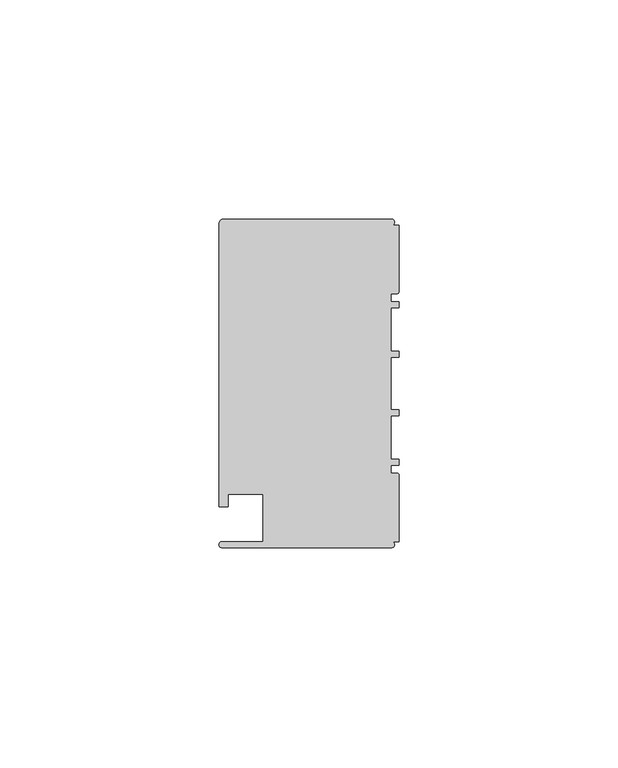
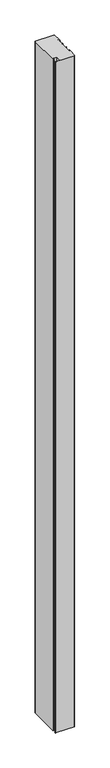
"""IFC4 building model written with IfcOpenShell, lengths in millimetres: member geometry, Прямоугольный импост : 1-AMG-1-Профиль 40Х75 Верх П."""

import ifcopenshell
import ifcopenshell.guid

model = None  # the IFC model being written
_history = None  # IfcOwnerHistory: only IFC2X3 demands one
_inside = {}  # id of a spatial element -> (the spatial element, [elements in it])
_under = {}  # id of a project, library or spatial element -> (it, [spatial elements below it])
_declared = {}  # id of a project -> (the project, [libraries it declares])
_typed = {}  # id of a type object -> (the type object, [elements of that type])
_made_of = {}  # id of a material, layer set ... -> (it, [elements and type objects made of it])


def new_model(schema):
    """Start an empty IFC model of exactly this schema.

    Asked for "IFC4X3", IfcOpenShell would pick the latest addendum, in which some entities
    have other attributes; the version numbers below select the first issue.
    IFC2X3 requires an IfcOwnerHistory on every rooted entity: one is made here for all.
    """
    global model, _history
    if schema == "IFC4X3":
        model = ifcopenshell.file(schema_version=(4, 3, 0, 0))
    else:
        model = ifcopenshell.file(schema=schema)
    _inside.clear()
    _under.clear()
    _declared.clear()
    _typed.clear()
    _made_of.clear()
    _history = None
    if model.schema == "IFC2X3":
        org = make("IfcOrganization", Name="unknown")
        user = make(
            "IfcPersonAndOrganization",
            ThePerson=make("IfcPerson", FamilyName="unknown"),
            TheOrganization=org,
        )
        app = make(
            "IfcApplication",
            ApplicationDeveloper=org,
            Version="unknown",
            ApplicationFullName="unknown",
            ApplicationIdentifier="unknown",
        )
        _history = make(
            "IfcOwnerHistory",
            OwningUser=user,
            OwningApplication=app,
            ChangeAction="ADDED",
            CreationDate=0,
        )
    return model


def make(cls, **values):
    """One entity of the class cls with the attributes given. An attribute that is None is left unset."""
    return model.create_entity(
        cls, **{name: value for name, value in values.items() if value is not None}
    )


def rooted(cls, **values):
    """An entity with a GlobalId (a new one), such as an element, a storey or a relation."""
    return make(cls, GlobalId=ifcopenshell.guid.new(), OwnerHistory=_history, **values)


def si_unit(unit_type, name, prefix=None):
    """IfcSIUnit, for example si_unit("LENGTHUNIT", "METRE", prefix="MILLI")."""
    return make("IfcSIUnit", UnitType=unit_type, Prefix=prefix, Name=name)


def assignment(units):
    """IfcUnitAssignment: the units of a project."""
    return None if units is None else make("IfcUnitAssignment", Units=units)


def point(xyz):
    """IfcCartesianPoint."""
    return None if xyz is None else make("IfcCartesianPoint", Coordinates=xyz)


def direction(xyz):
    """IfcDirection."""
    return None if xyz is None else make("IfcDirection", DirectionRatios=xyz)


def frame(location, z_axis=None, x_axis=None):
    """IfcAxis2Placement3D, a coordinate frame: its origin and axes. An axis left out is left unset."""
    return make(
        "IfcAxis2Placement3D",
        Location=point(location),
        Axis=direction(z_axis),
        RefDirection=direction(x_axis),
    )


def frame_2d(location, x_axis=None):
    """IfcAxis2Placement2D, a coordinate frame in the plane: its origin and x axis."""
    return make(
        "IfcAxis2Placement2D", Location=point(location), RefDirection=direction(x_axis)
    )


def origin():
    """The frame at (0, 0, 0) with its axes left unset."""
    return frame((0.0, 0.0, 0.0))


def place(relative_to, where):
    """IfcLocalPlacement: puts the frame where relative to a parent placement (None: the world)."""
    return make(
        "IfcLocalPlacement", PlacementRelTo=relative_to, RelativePlacement=where
    )


def context(
    kind, dimensions, precision=None, world=None, true_north=None, identifier=None
):
    """IfcGeometricRepresentationContext, for example the 3D "Model" context."""
    return make(
        "IfcGeometricRepresentationContext",
        ContextIdentifier=identifier,
        ContextType=kind,
        CoordinateSpaceDimension=dimensions,
        Precision=precision,
        WorldCoordinateSystem=world,
        TrueNorth=true_north,
    )


def project(units=None, contexts=None):
    """IfcProject with its units and contexts."""
    return rooted(
        "IfcProject",
        Name="project",
        RepresentationContexts=contexts,
        UnitsInContext=assignment(units),
    )


def spatial(cls, under=None, at=None, **own):
    """A site, building, storey or space (cls), placed at a placement, below another one or the project."""
    s = rooted(cls, ObjectPlacement=at, **own)
    if under is not None:
        _under.setdefault(under.id(), (under, []))[1].append(s)
    return s


def polyline(points):
    """IfcPolyline through the points."""
    return make("IfcPolyline", Points=[point(p) for p in points])


def circle_curve(where, radius):
    """IfcCircle in the frame where."""
    return make("IfcCircle", Position=where, Radius=radius)


def trimmed(basis, trim1, trim2, sense, master):
    """IfcTrimmedCurve: the piece of a basis curve between two trims."""
    return make(
        "IfcTrimmedCurve",
        BasisCurve=basis,
        Trim1=trim1,
        Trim2=trim2,
        SenseAgreement=sense,
        MasterRepresentation=master,
    )


def segment(curve, same_sense, transition):
    """IfcCompositeCurveSegment."""
    return make(
        "IfcCompositeCurveSegment",
        Transition=transition,
        SameSense=same_sense,
        ParentCurve=curve,
    )


def composite_curve(segments, self_intersect=None):
    """IfcCompositeCurve: segments joined end to end."""
    return make("IfcCompositeCurve", Segments=segments, SelfIntersect=self_intersect)


def outline(outer, holes=None, kind="AREA"):
    """IfcArbitraryClosedProfileDef: a profile drawn as a closed curve; with holes, ...WithVoids."""
    if holes is None:
        return make("IfcArbitraryClosedProfileDef", ProfileType=kind, OuterCurve=outer)
    return make(
        "IfcArbitraryProfileDefWithVoids",
        ProfileType=kind,
        OuterCurve=outer,
        InnerCurves=holes,
    )


def extrude(swept, where, along, depth):
    """IfcExtrudedAreaSolid: the profile swept, set in the frame where, extruded along a direction by depth."""
    return make(
        "IfcExtrudedAreaSolid",
        SweptArea=swept,
        Position=where,
        ExtrudedDirection=direction(along),
        Depth=depth,
    )


def shape(context_of_items, identifier, shape_type, items):
    """IfcShapeRepresentation: the items that make up one representation, for example the "Body"."""
    return make(
        "IfcShapeRepresentation",
        ContextOfItems=context_of_items,
        RepresentationIdentifier=identifier,
        RepresentationType=shape_type,
        Items=items,
    )


def source(mapping_origin, context_of_items, identifier, shape_type, items):
    """IfcRepresentationMap: a shape defined once, which mapped items show again and again."""
    return make(
        "IfcRepresentationMap",
        MappingOrigin=mapping_origin,
        MappedRepresentation=shape(context_of_items, identifier, shape_type, items),
    )


def transform(
    local_origin,
    x_axis=None,
    y_axis=None,
    z_axis=None,
    scale=None,
    scale2=None,
    scale3=None,
    uniform=True,
):
    """IfcCartesianTransformationOperator3D, or its non-uniform kind. x_axis, y_axis, z_axis: its Axis1, 2, 3."""
    if uniform:
        return make(
            "IfcCartesianTransformationOperator3D",
            Axis1=direction(x_axis),
            Axis2=direction(y_axis),
            LocalOrigin=point(local_origin),
            Scale=scale,
            Axis3=direction(z_axis),
        )
    return make(
        "IfcCartesianTransformationOperator3DnonUniform",
        Axis1=direction(x_axis),
        Axis2=direction(y_axis),
        LocalOrigin=point(local_origin),
        Scale=scale,
        Axis3=direction(z_axis),
        Scale2=scale2,
        Scale3=scale3,
    )


def mapped(mapping_source, mapping_target):
    """IfcMappedItem: shows the shape of a source again, moved by a transform."""
    return make(
        "IfcMappedItem", MappingSource=mapping_source, MappingTarget=mapping_target
    )


def made_of(thing, what):
    """Note that an element or type object is made of a material, layer set ...; save() writes the relation."""
    if what is not None:
        _made_of.setdefault(what.id(), (what, []))[1].append(thing)
    return thing


def element(
    cls,
    number,
    at=None,
    inside=None,
    cuts=None,
    type_object=None,
    material=None,
    context=None,
    identifier="Body",
    shape_type=None,
    held_by="IfcProductDefinitionShape",
    body=None,
    shapes=None,
    **own,
):
    """One element of the class cls, such as IfcWall. Its Tag is "e" and its number.

    at: its placement. inside: the storey or other place that contains it. cuts: it is an
    opening in that element (IfcRelVoidsElement). A single representation is given by context,
    identifier, shape_type and body (its items); several are given by shapes. held_by: the class
    of the entity that holds the representations. save() writes the other relations.
    """
    e = rooted(cls, Tag="e%d" % number, ObjectPlacement=at, **own)
    if body is not None:
        shapes = [shape(context, identifier, shape_type, body)]
    if shapes is not None:
        e.Representation = make(held_by, Representations=shapes)
    if inside is not None:
        _inside.setdefault(inside.id(), (inside, []))[1].append(e)
    if cuts is not None:
        rooted(
            "IfcRelVoidsElement", RelatingBuildingElement=cuts, RelatedOpeningElement=e
        )
    if type_object is not None:
        _typed.setdefault(type_object.id(), (type_object, []))[1].append(e)
    return made_of(e, material)


def aggregate(whole, parts):
    """IfcRelAggregates: a whole, such as a stair, and the parts it consists of."""
    return rooted("IfcRelAggregates", RelatingObject=whole, RelatedObjects=parts)


def save(model, path):
    """Write the relations noted so far, then the file.

    IfcRelAggregates (storeys below a building ...), IfcRelContainedInSpatialStructure (elements
    in a storey), IfcRelDefinesByType, IfcRelAssociatesMaterial and IfcRelDeclares: one each for
    every whole, place, type object, material and project.
    """
    for whole, parts in _under.values():
        aggregate(whole, parts)
    for where, things in _inside.values():
        rooted(
            "IfcRelContainedInSpatialStructure",
            RelatedElements=things,
            RelatingStructure=where,
        )
    for kind, things in _typed.values():
        rooted("IfcRelDefinesByType", RelatedObjects=things, RelatingType=kind)
    for what, things in _made_of.values():
        rooted("IfcRelAssociatesMaterial", RelatedObjects=things, RelatingMaterial=what)
    for by, libraries in _declared.values():
        rooted("IfcRelDeclares", RelatingContext=by, RelatedDefinitions=libraries)
    model.write(path)


def member_839cf36c(model_context):
    return source(origin(), model_context, "Body", "SweptSolid", [
        extrude(outline(composite_curve([segment(polyline([(-1.7, -37.5), (-40.4, -37.5)]), True, "CONTINUOUS"), segment(trimmed(circle_curve(frame_2d((-40.4, -36.8)), 0.7), [point((-40.4, -37.5))], [point((-40.4, -36.1))], False, "CARTESIAN"), True, "CONTINUOUS"), segment(polyline([(-40.4, -36.1), (-31.0, -36.1), (-31.0, -25.25), (-39.0, -25.25), (-39.0, -28.1), (-41.1, -28.1), (-41.1, 36.1)]), True, "CONTINUOUS"), segment(trimmed(circle_curve(frame_2d((-39.7541527, 36.3020763)), 1.3609334), [point((-41.1, 36.1))], [point((-40.4, 37.5))], False, "CARTESIAN"), True, "CONTINUOUS"), segment(polyline([(-40.4, 37.5), (-1.7, 37.5)]), True, "CONTINUOUS"), segment(trimmed(circle_curve(frame_2d((-1.7, 36.8)), 0.7), [point((-1.7, 37.5))], [point((-1.7, 36.1))], False, "CARTESIAN"), True, "CONTINUOUS"), segment(polyline([(-1.7, 36.1), (0.0, 36.1), (0.0, 20.95)]), True, "CONTINUOUS"), segment(trimmed(circle_curve(frame_2d((-0.5, 20.95)), 0.5), [point((0.0, 20.95))], [point((-0.5, 20.45))], False, "CARTESIAN"), True, "CONTINUOUS"), segment(polyline([(-0.5, 20.45), (-1.8, 20.45), (-1.8, 18.65), (0.0, 18.65), (0.0, 17.25), (-1.8, 17.25), (-1.8, 7.4), (0.0, 7.4), (0.0, 6.0), (-1.8, 6.0), (-1.8, -6.0), (0.0, -6.0), (0.0, -7.4), (-1.8, -7.4), (-1.8, -17.25), (0.0, -17.25), (0.0, -18.65), (-1.8, -18.65), (-1.8, -20.45), (-0.5, -20.45)]), True, "CONTINUOUS"), segment(trimmed(circle_curve(frame_2d((-0.5, -20.95)), 0.5), [point((-0.5, -20.45))], [point((0.0, -20.95))], False, "CARTESIAN"), True, "CONTINUOUS"), segment(polyline([(0.0, -20.95), (0.0, -36.1), (-1.7, -36.1)]), True, "CONTINUOUS"), segment(trimmed(circle_curve(frame_2d((-1.7, -36.8)), 0.7), [point((-1.7, -36.1))], [point((-1.7, -37.5))], False, "CARTESIAN"), True, "CONTINUOUS")], self_intersect=False)), frame((0.0, 0.0, -1482.2093751), z_axis=(0.0, 0.0, 1.0), x_axis=(1.0, 0.0, 0.0)), (0.0, 0.0, 1.0), 1482.2093751),
    ])


if __name__ == "__main__":
    model = new_model("IFC4")
    model_context = context("Model", 3, world=origin())
    ifc_project = project(units=[si_unit("LENGTHUNIT", "METRE", prefix="MILLI")], contexts=[model_context])
    site = spatial("IfcSite", under=ifc_project)
    building = spatial("IfcBuilding", under=site)
    placement = place(None, origin())
    member_shape = member_839cf36c(model_context)
    element("IfcMember", 1, ObjectType="Прямоугольный импост : 1-AMG-1-Профиль 40Х75 Верх П", at=placement, inside=building, context=model_context, shape_type="MappedRepresentation", body=[
        mapped(member_shape, transform((0.0, 0.0, 0.0), x_axis=(1.0, 0.0, 0.0), y_axis=(0.0, 1.0, 0.0), z_axis=(0.0, 0.0, 1.0))),
    ])
    save(model, "model.ifc")
